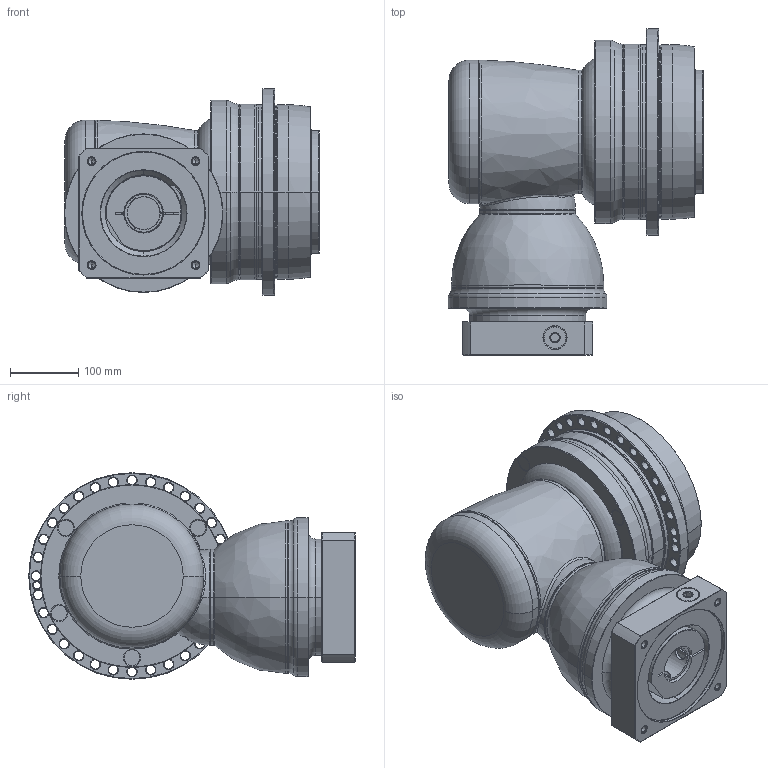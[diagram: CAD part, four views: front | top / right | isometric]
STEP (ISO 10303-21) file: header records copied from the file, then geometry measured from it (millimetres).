
FILE_DESCRIPTION((''),'2;1');
FILE_NAME('APK255_2ST_48-P0409B10201_ASM','2018-06-21T',('D00080'),(''),'PRO/ENGINEER BY PARAMETRIC TECHNOLOGY CORPORATION, 2008170','PRO/ENGINEER BY PARAMETRIC TECHNOLOGY CORPORATION, 2008170','');
FILE_SCHEMA(('CONFIG_CONTROL_DESIGN'));
Length unit declared in the file: millimetre
Products named in the file (13): P1008600002; P1802710001; P0278701003; P0359701103; P1211700001; P1315600001; P1007601001; P1318610401; P0503B00016; P0912654001; P0409B10201; 21711426021; APK255_2ST_48-P0409B10201_ASM
Assembly tree (12 placements, depth 2):
  APK255_2ST_48-P0409B10201_ASM
    P1008600002
    P1802710001
    P0278701003
    P0359701103
    P1211700001
    P1315600001
    P1007601001
    P1318610401
    P0503B00016
    P0912654001
    P0409B10201
    21711426021
Bounding box: 373.5 x 477.5 x 302 mm (x, y, z)
Volume: 21799292.1 mm3; surface area: 1457415.2 mm2
Topology: 13 solids, 36 shells, 860 faces, 2020 edges, 1217 vertices
Faces by surface type: cylinder 342, cone 264, plane 136, torus 85, bspline 31, sphere 2
Entity records: 31518 total; most frequent: CARTESIAN_POINT 11021, DIRECTION 4721, ORIENTED_EDGE 3870, AXIS2_PLACEMENT_3D 2025, EDGE_CURVE 1982, VERTEX_POINT 1217, CIRCLE 1159, EDGE_LOOP 1013
